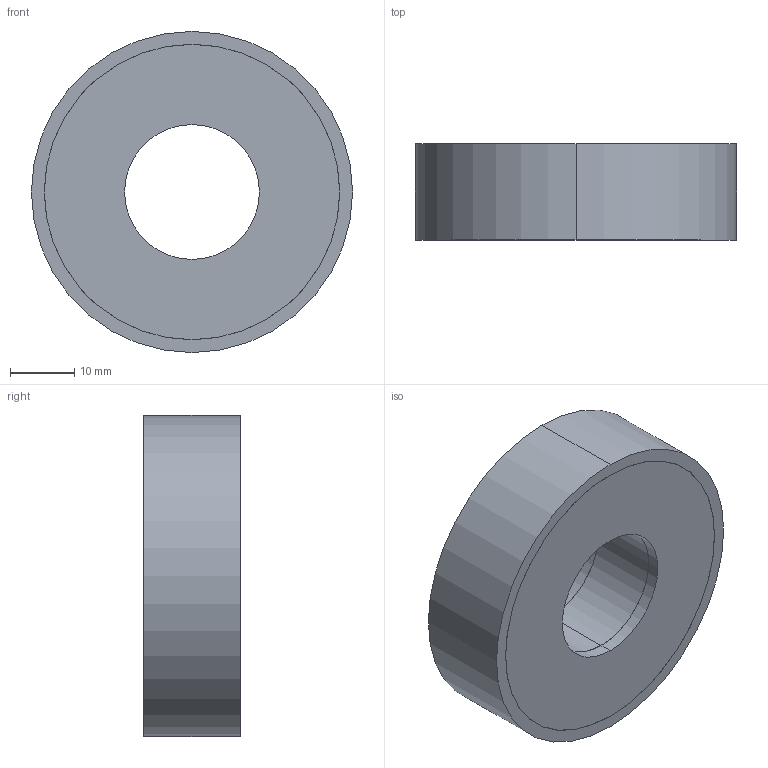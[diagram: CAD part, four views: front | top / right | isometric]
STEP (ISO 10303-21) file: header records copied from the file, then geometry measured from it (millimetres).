
FILE_DESCRIPTION (( 'STEP AP214' ), '1' );
FILE_NAME ('351-50-15-21-DD-55.step', '2025-07-23T10:13:16', ( '' ), ( '' ), 'SwSTEP 2.0', 'SolidWorks 2022', '' );
FILE_SCHEMA (( 'AUTOMOTIVE_DESIGN' ));
Length unit declared in the file: millimetre
Products named in the file (1): 351-50-15-21-DD-55
Bounding box: 50 x 15 x 50 mm (x, y, z)
Volume: 24257 mm3; surface area: 6588.5 mm2
Topology: 1 solids, 1 shells, 30 faces, 60 edges, 40 vertices
Faces by surface type: cylinder 20, plane 10
Entity records: 919 total; most frequent: DIRECTION 162, CARTESIAN_POINT 131, ORIENTED_EDGE 120, AXIS2_PLACEMENT_3D 71, EDGE_CURVE 60, CIRCLE 40, EDGE_LOOP 40, VERTEX_POINT 40
